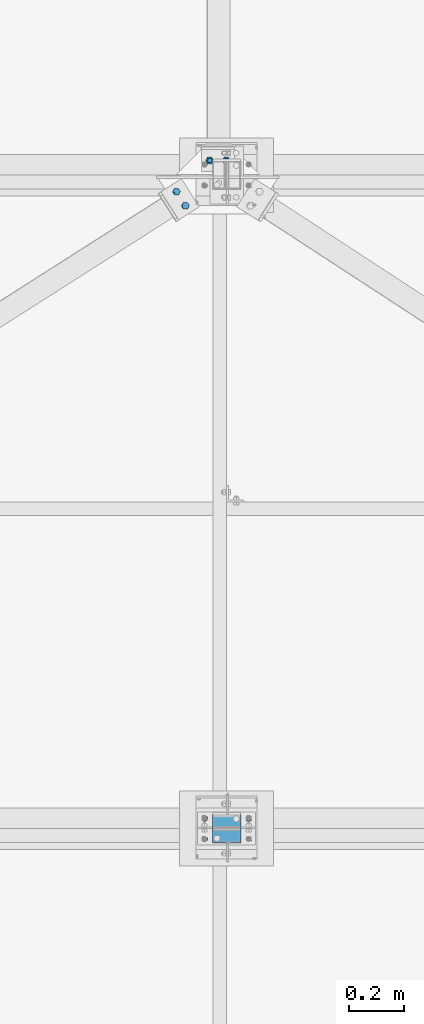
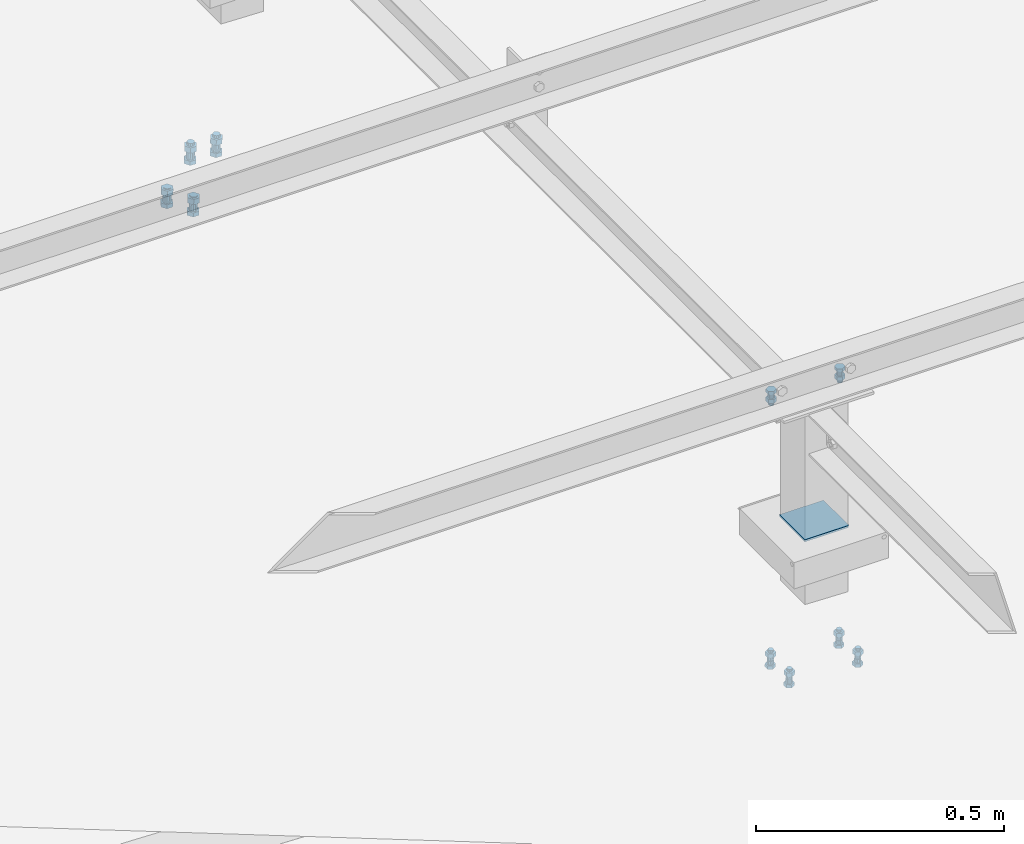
# One storey, part 336 of 3134: 5 mechanical fasteners, 4 elements without a shape of their own.
"""IFC2X3 building model written with IfcOpenShell, lengths in millimetres."""

from ifc_helpers import new_model, si_unit, frame, origin_with_axes, place, context, subcontext, project, spatial, faceted_brep, source, transform, mapped, material, type_object, element, aggregate, save


model = new_model("IFC2X3")

# Units and contexts
model_context = context("Model", 3, precision=1e-05, world=origin_with_axes())
body_context = subcontext(model_context, "Body", "Model", "MODEL_VIEW")
ifc_project = project(units=[si_unit("LENGTHUNIT", "METRE", prefix="MILLI"), si_unit("AREAUNIT", "SQUARE_METRE"), si_unit("VOLUMEUNIT", "CUBIC_METRE"), si_unit("MASSUNIT", "GRAM", prefix="KILO"), si_unit("TIMEUNIT", "SECOND"), si_unit("PLANEANGLEUNIT", "RADIAN"), si_unit("SOLIDANGLEUNIT", "STERADIAN"), si_unit("THERMODYNAMICTEMPERATUREUNIT", "DEGREE_CELSIUS"), si_unit("LUMINOUSINTENSITYUNIT", "LUMEN")], contexts=[model_context])

# Site, building, storey
site_placement = place(None, origin_with_axes())
site = spatial("IfcSite", under=ifc_project, at=site_placement, CompositionType="ELEMENT")
building_placement = place(site_placement, origin_with_axes())
building = spatial("IfcBuilding", under=site, at=building_placement, Name="Undefined", CompositionType="ELEMENT")
storey_placement = place(building_placement, origin_with_axes())
storey = spatial("IfcBuildingStorey", under=building, at=storey_placement, Name="Undefined", CompositionType="ELEMENT", Elevation=0.0)

# Assembly, mechanical fastener
assembly_1_placement = place(storey_placement, origin_with_axes())
assembly_1 = element("IfcElementAssembly", 1, at=assembly_1_placement, inside=storey, AssemblyPlace="NOTDEFINED", PredefinedType="RIGID_FRAME")
ifc_material_1 = material(Name="8.8")
mechanical_fastener_type = type_object("IfcMechanicalFastenerType", Name="Bolt assembly")
shared_shape_1 = source(origin_with_axes(), body_context, "Body", "Brep", [
    faceted_brep([(10.9696551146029, -14.0, 0.0), (5.48482755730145, -14.0, 9.5), (-5.48482755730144, -14.0, 9.5), (-10.9696551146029, -14.0, 1.34339530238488e-15), (-5.48482755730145, -14.0, -9.5), (5.48482755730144, -14.0, -9.50000000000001), (5.48482755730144, -6.0, -9.50000000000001), (-5.48482755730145, -6.0, -9.5), (-10.9696551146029, -6.0, 1.34339530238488e-15), (-5.48482755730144, -6.0, 9.5), (5.48482755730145, -6.0, 9.5), (10.9696551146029, -6.0, 0.0), (6.0, -6.0, 0.0), (5.19615242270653, -6.0, 3.00000000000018), (2.99999999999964, -6.0, 5.19615242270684), (-6.21801588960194e-13, -6.0, 6.0), (-3.00000000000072, -6.0, 5.19615242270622), (-5.19615242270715, -6.0, 2.9999999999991), (-6.0, -6.0, -1.24360317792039e-12), (-5.19615242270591, -6.0, -3.00000000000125), (-2.99999999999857, -6.0, -5.19615242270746), (1.85874342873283e-12, -6.0, -6.0), (3.00000000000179, -6.0, -5.1961524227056), (5.19615242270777, -6.0, -2.99999999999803), (5.19615242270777, 24.0, -2.99999999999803), (3.00000000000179, 24.0, -5.1961524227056), (1.85874342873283e-12, 24.0, -6.0), (-2.99999999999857, 24.0, -5.19615242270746), (-5.19615242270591, 24.0, -3.00000000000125), (-6.0, 24.0, -1.24360317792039e-12), (-5.19615242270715, 24.0, 2.9999999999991), (-3.00000000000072, 24.0, 5.19615242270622), (-6.21801588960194e-13, 24.0, 6.0), (2.99999999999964, 24.0, 5.19615242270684), (5.19615242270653, 24.0, 3.00000000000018), (6.0, 24.0, 0.0), (10.9696551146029, 6.00000000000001, 0.0), (5.48482755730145, 6.00000000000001, 9.5), (-5.48482755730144, 6.00000000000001, 9.5), (-10.9696551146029, 6.00000000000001, 1.34339530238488e-15), (-5.48482755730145, 6.00000000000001, -9.5), (5.48482755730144, 6.00000000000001, -9.50000000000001), (5.48482755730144, 16.0, -9.50000000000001), (-5.48482755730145, 16.0, -9.5), (-10.9696551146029, 16.0, 1.34339530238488e-15), (-5.48482755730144, 16.0, 9.5), (5.48482755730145, 16.0, 9.5), (10.9696551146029, 16.0, 0.0)], [[[0, 1, 2, 3, 4, 5]], [[6, 7, 8, 9, 10, 11]], [[0, 11, 10, 1]], [[1, 10, 9, 2]], [[2, 9, 8, 3]], [[3, 8, 7, 4]], [[4, 7, 6, 5]], [[5, 6, 11, 0]], [[12, 13, 14, 15, 16, 17, 18, 19, 20, 21, 22, 23]], [[24, 25, 26, 27, 28, 29, 30, 31, 32, 33, 34, 35]], [[12, 35, 34, 13]], [[13, 34, 33, 14]], [[14, 33, 32, 15]], [[15, 32, 31, 16]], [[16, 31, 30, 17]], [[17, 30, 29, 18]], [[18, 29, 28, 19]], [[19, 28, 27, 20]], [[20, 27, 26, 21]], [[21, 26, 25, 22]], [[22, 25, 24, 23]], [[23, 24, 35, 12]], [[36, 37, 38, 39, 40, 41]], [[42, 43, 44, 45, 46, 47]], [[36, 47, 46, 37]], [[37, 46, 45, 38]], [[38, 45, 44, 39]], [[39, 44, 43, 40]], [[40, 43, 42, 41]], [[41, 42, 47, 36]]]),
    faceted_brep([(7.0, -0.1, 0.0), (6.06217782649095, -0.1, 3.50000000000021), (3.49999999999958, -0.1, 6.06217782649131), (-7.25435187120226e-13, -0.1, 7.0), (-3.50000000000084, -0.1, 6.06217782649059), (-6.06217782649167, -0.1, 3.49999999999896), (-7.0, -0.1, -1.45087037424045e-12), (-6.06217782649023, -0.1, -3.50000000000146), (-3.49999999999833, -0.1, -6.06217782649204), (2.1685340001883e-12, -0.1, -7.0), (3.50000000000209, -0.1, -6.06217782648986), (6.0621778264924, -0.1, -3.4999999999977), (6.0621778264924, 6.00000000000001, -3.4999999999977), (3.50000000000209, 6.00000000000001, -6.06217782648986), (2.1685340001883e-12, 6.00000000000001, -7.0), (-3.49999999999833, 6.00000000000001, -6.06217782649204), (-6.06217782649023, 6.00000000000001, -3.50000000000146), (-7.0, 6.00000000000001, -1.45087037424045e-12), (-6.06217782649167, 6.00000000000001, 3.49999999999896), (-3.50000000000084, 6.00000000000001, 6.06217782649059), (-7.25435187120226e-13, 6.00000000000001, 7.0), (3.49999999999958, 6.00000000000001, 6.06217782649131), (6.06217782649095, 6.00000000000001, 3.50000000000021), (7.0, 6.00000000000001, 0.0), (7.0, -5.9, 0.0), (6.06217782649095, -5.9, 3.50000000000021), (3.49999999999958, -5.9, 6.06217782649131), (-7.25435187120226e-13, -5.9, 7.0), (-3.50000000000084, -5.9, 6.06217782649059), (-6.06217782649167, -5.9, 3.49999999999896), (-7.0, -5.9, -1.45087037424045e-12), (-6.06217782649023, -5.9, -3.50000000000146), (-3.49999999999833, -5.9, -6.06217782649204), (2.1685340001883e-12, -5.9, -7.0), (3.50000000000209, -5.9, -6.06217782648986), (6.0621778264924, -5.9, -3.4999999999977), (6.0621778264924, 0.0999999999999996, -3.4999999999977), (3.50000000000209, 0.0999999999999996, -6.06217782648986), (2.1685340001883e-12, 0.0999999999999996, -7.0), (-3.49999999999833, 0.0999999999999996, -6.06217782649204), (-6.06217782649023, 0.0999999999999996, -3.50000000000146), (-7.0, 0.0999999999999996, -1.45087037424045e-12), (-6.06217782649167, 0.0999999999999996, 3.49999999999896), (-3.50000000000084, 0.0999999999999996, 6.06217782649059), (-7.25435187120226e-13, 0.0999999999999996, 7.0), (3.49999999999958, 0.0999999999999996, 6.06217782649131), (6.06217782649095, 0.0999999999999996, 3.50000000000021), (7.0, 0.0999999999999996, 0.0)], [[[0, 1, 2, 3, 4, 5, 6, 7, 8, 9, 10, 11]], [[12, 13, 14, 15, 16, 17, 18, 19, 20, 21, 22, 23]], [[0, 23, 22, 1]], [[1, 22, 21, 2]], [[2, 21, 20, 3]], [[3, 20, 19, 4]], [[4, 19, 18, 5]], [[5, 18, 17, 6]], [[6, 17, 16, 7]], [[7, 16, 15, 8]], [[8, 15, 14, 9]], [[9, 14, 13, 10]], [[10, 13, 12, 11]], [[11, 12, 23, 0]], [[24, 25, 26, 27, 28, 29, 30, 31, 32, 33, 34, 35]], [[36, 37, 38, 39, 40, 41, 42, 43, 44, 45, 46, 47]], [[24, 47, 46, 25]], [[25, 46, 45, 26]], [[26, 45, 44, 27]], [[27, 44, 43, 28]], [[28, 43, 42, 29]], [[29, 42, 41, 30]], [[30, 41, 40, 31]], [[31, 40, 39, 32]], [[32, 39, 38, 33]], [[33, 38, 37, 34]], [[34, 37, 36, 35]], [[35, 36, 47, 24]]]),
])
mechanical_fastener_1_placement = place(assembly_1_placement, frame((75550.0, 10045.0, 5850.0), z_axis=(1.0, 0.0, 0.0), x_axis=(0.0, -1.0, 0.0)))
mechanical_fastener_1 = element("IfcMechanicalFastener", 2, at=mechanical_fastener_1_placement, type_object=mechanical_fastener_type, material=ifc_material_1, Name="Bolt assembly", NominalDiameter=12.0, NominalLength=30.0, context=body_context, shape_type="MappedRepresentation", body=[
    mapped(shared_shape_1, transform((0.0, -5.32963895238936e-10, -79.9999999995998))),
    mapped(shared_shape_1, transform((0.0, 5.3114490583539e-10, 79.9999999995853))),
])
aggregate(assembly_1, [mechanical_fastener_1])

assembly_2_placement = place(storey_placement, origin_with_axes())
assembly_2 = element("IfcElementAssembly", 3, at=assembly_2_placement, inside=storey, AssemblyPlace="NOTDEFINED", PredefinedType="RIGID_FRAME")
ifc_material_2 = material(Name="6.8")
shared_shape_2 = source(origin_with_axes(), body_context, "Body", "Brep", [
    faceted_brep([(51.5, 1.36424205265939e-12, 50.0), (51.3858192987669, 1.36424205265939e-12, 50.5740251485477), (51.0606601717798, 1.36424205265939e-12, 51.0606601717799), (50.5740251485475, 1.36424205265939e-12, 51.385819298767), (-50.0000000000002, 1.36424205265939e-12, 51.5), (-50.7500000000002, 1.36424205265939e-12, 51.2990381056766), (-51.2990381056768, 1.36424205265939e-12, 50.7499999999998), (-51.5, 1.36424205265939e-12, 49.9999999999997), (-51.5, 1.36424205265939e-12, -50.0000000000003), (-51.2990381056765, 1.36424205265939e-12, -50.7500000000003), (-50.7499999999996, 1.36424205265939e-12, -51.2990381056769), (-49.9999999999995, 1.36424205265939e-12, -51.5), (50.0000000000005, 1.36424205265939e-12, -51.5), (50.7500000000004, 1.36424205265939e-12, -51.2990381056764), (51.2990381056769, 1.36424205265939e-12, -50.7499999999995), (51.5, 1.36424205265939e-12, -49.9999999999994), (51.5, 5.10000000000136, -49.9999999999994), (51.2990381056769, 5.10000000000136, -50.7499999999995), (50.7500000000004, 5.10000000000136, -51.2990381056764), (50.0000000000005, 5.10000000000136, -51.5), (-49.9999999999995, 5.10000000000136, -51.5), (-50.7499999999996, 5.10000000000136, -51.2990381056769), (-51.2990381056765, 5.10000000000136, -50.7500000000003), (-51.5, 5.10000000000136, -50.0000000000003), (-51.5, 5.10000000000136, 49.9999999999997), (-51.2990381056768, 5.10000000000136, 50.7499999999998), (-50.7500000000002, 5.10000000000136, 51.2990381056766), (-50.0000000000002, 5.10000000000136, 51.5), (50.5740251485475, 5.10000000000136, 51.385819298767), (51.0606601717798, 5.10000000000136, 51.0606601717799), (51.3858192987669, 5.10000000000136, 50.5740251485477), (51.5, 5.10000000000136, 50.0)], [[[0, 1, 2, 3, 4, 5, 6, 7, 8, 9, 10, 11, 12, 13, 14, 15]], [[16, 17, 18, 19, 20, 21, 22, 23, 24, 25, 26, 27, 28, 29, 30, 31]], [[0, 31, 30, 1]], [[1, 30, 29, 2]], [[2, 29, 28, 3]], [[3, 28, 27, 4]], [[4, 27, 26, 5]], [[5, 26, 25, 6]], [[6, 25, 24, 7]], [[7, 24, 23, 8]], [[8, 23, 22, 9]], [[9, 22, 21, 10]], [[10, 21, 20, 11]], [[11, 20, 19, 12]], [[12, 19, 18, 13]], [[13, 18, 17, 14]], [[14, 17, 16, 15]], [[15, 16, 31, 0]]]),
])
mechanical_fastener_2_placement = place(assembly_2_placement, frame((75550.0, 10010.0, 5533.71), z_axis=(0.0, -1.0, 0.0), x_axis=(-1.0, 0.0, 0.0)))
mechanical_fastener_2 = element("IfcMechanicalFastener", 4, at=mechanical_fastener_2_placement, type_object=mechanical_fastener_type, material=ifc_material_2, Name="Bolt assembly", NominalDiameter=10.0, NominalLength=5.0, context=body_context, shape_type="MappedRepresentation", body=[
    mapped(shared_shape_2, transform((0.0, 0.0, 0.0))),
])
aggregate(assembly_2, [mechanical_fastener_2])

# Assembly, mechanical fasteners
assembly_3_placement = place(storey_placement, origin_with_axes())
assembly_3 = element("IfcElementAssembly", 5, at=assembly_3_placement, inside=storey, Name="300", AssemblyPlace="NOTDEFINED", PredefinedType="RIGID_FRAME")
shared_shape_3 = source(origin_with_axes(), body_context, "Body", "Brep", [
    faceted_brep([(13.856406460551, -15.0026600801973, 0.0), (6.92820323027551, -15.0026600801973, 12.0), (-6.92820323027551, -15.0026600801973, 12.0), (-13.856406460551, -15.0026600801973, 1.69692038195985e-15), (-6.92820323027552, -15.0026600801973, -12.0), (6.9282032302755, -15.0026600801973, -12.0), (6.9282032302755, -5.00266008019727, -12.0), (-6.92820323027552, -5.00266008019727, -12.0), (-13.856406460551, -5.00266008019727, 1.69692038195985e-15), (-6.92820323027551, -5.00266008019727, 12.0), (6.92820323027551, -5.00266008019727, 12.0), (13.856406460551, -5.00266008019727, 0.0), (8.0, -5.00266008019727, 0.0), (6.92820323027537, -5.00266008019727, 4.00000000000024), (3.99999999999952, -5.00266008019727, 6.92820323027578), (-8.29068785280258e-13, -5.00266008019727, 8.0), (-4.00000000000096, -5.00266008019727, 6.92820323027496), (-6.9282032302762, -5.00266008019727, 3.99999999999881), (-8.0, -5.00266008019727, -1.65813757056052e-12), (-6.92820323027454, -5.00266008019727, -4.00000000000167), (-3.99999999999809, -5.00266008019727, -6.92820323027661), (2.47832457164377e-12, -5.00266008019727, -8.0), (4.00000000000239, -5.00266008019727, -6.92820323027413), (6.92820323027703, -5.00266008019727, -3.99999999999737), (6.92820323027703, 34.9973399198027, -3.99999999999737), (4.00000000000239, 34.9973399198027, -6.92820323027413), (2.47832457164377e-12, 34.9973399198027, -8.0), (-3.99999999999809, 34.9973399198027, -6.92820323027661), (-6.92820323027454, 34.9973399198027, -4.00000000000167), (-8.0, 34.9973399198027, -1.65813757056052e-12), (-6.9282032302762, 34.9973399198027, 3.99999999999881), (-4.00000000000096, 34.9973399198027, 6.92820323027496), (-8.29068785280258e-13, 34.9973399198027, 8.0), (3.99999999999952, 34.9973399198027, 6.92820323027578), (6.92820323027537, 34.9973399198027, 4.00000000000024), (8.0, 34.9973399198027, 0.0), (13.856406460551, 14.9999995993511, 0.0), (6.92820323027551, 14.9999995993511, 12.0), (-6.92820323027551, 14.9999995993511, 12.0), (-13.856406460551, 14.9999995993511, 1.69692038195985e-15), (-6.92820323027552, 14.9999995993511, -12.0), (6.9282032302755, 14.9999995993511, -12.0), (6.9282032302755, 27.9999995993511, -12.0), (-6.92820323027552, 27.9999995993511, -12.0), (-13.856406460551, 27.9999995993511, 1.69692038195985e-15), (-6.92820323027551, 27.9999995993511, 12.0), (6.92820323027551, 27.9999995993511, 12.0), (13.856406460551, 27.9999995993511, 0.0)], [[[0, 1, 2, 3, 4, 5]], [[6, 7, 8, 9, 10, 11]], [[0, 11, 10, 1]], [[1, 10, 9, 2]], [[2, 9, 8, 3]], [[3, 8, 7, 4]], [[4, 7, 6, 5]], [[5, 6, 11, 0]], [[12, 13, 14, 15, 16, 17, 18, 19, 20, 21, 22, 23]], [[24, 25, 26, 27, 28, 29, 30, 31, 32, 33, 34, 35]], [[12, 35, 34, 13]], [[13, 34, 33, 14]], [[14, 33, 32, 15]], [[15, 32, 31, 16]], [[16, 31, 30, 17]], [[17, 30, 29, 18]], [[18, 29, 28, 19]], [[19, 28, 27, 20]], [[20, 27, 26, 21]], [[21, 26, 25, 22]], [[22, 25, 24, 23]], [[23, 24, 35, 12]], [[36, 37, 38, 39, 40, 41]], [[42, 43, 44, 45, 46, 47]], [[36, 47, 46, 37]], [[37, 46, 45, 38]], [[38, 45, 44, 39]], [[39, 44, 43, 40]], [[40, 43, 42, 41]], [[41, 42, 47, 36]]]),
    faceted_brep([(9.0, 4.90000583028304, 0.0), (7.79422863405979, 4.90000583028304, 4.50000000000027), (4.49999999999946, 4.90000583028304, 7.79422863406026), (-9.3270238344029e-13, 4.90000583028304, 9.0), (-4.50000000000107, 4.90000583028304, 7.79422863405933), (-7.79422863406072, 4.90000583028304, 4.49999999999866), (-9.0, 4.90000583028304, -1.86540476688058e-12), (-7.79422863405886, 4.90000583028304, -4.50000000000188), (-4.49999999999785, 4.90000583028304, -7.79422863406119), (2.78811514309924e-12, 4.90000583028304, -9.0), (4.50000000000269, 4.90000583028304, -7.7942286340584), (7.79422863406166, 4.90000583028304, -4.49999999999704), (7.79422863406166, 14.9999995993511, -4.49999999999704), (4.50000000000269, 14.9999995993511, -7.7942286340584), (2.78811514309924e-12, 14.9999995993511, -9.0), (-4.49999999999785, 14.9999995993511, -7.79422863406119), (-7.79422863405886, 14.9999995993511, -4.50000000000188), (-9.0, 14.9999995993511, -1.86540476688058e-12), (-7.79422863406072, 14.9999995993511, 4.49999999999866), (-4.50000000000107, 14.9999995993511, 7.79422863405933), (-9.3270238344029e-13, 14.9999995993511, 9.0), (4.49999999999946, 14.9999995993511, 7.79422863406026), (7.79422863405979, 14.9999995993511, 4.50000000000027), (9.0, 14.9999995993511, 0.0), (9.0, -4.90266008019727, 0.0), (7.79422863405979, -4.90266008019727, 4.50000000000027), (4.49999999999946, -4.90266008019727, 7.79422863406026), (-9.3270238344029e-13, -4.90266008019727, 9.0), (-4.50000000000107, -4.90266008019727, 7.79422863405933), (-7.79422863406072, -4.90266008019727, 4.49999999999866), (-9.0, -4.90266008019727, -1.86540476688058e-12), (-7.79422863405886, -4.90266008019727, -4.50000000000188), (-4.49999999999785, -4.90266008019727, -7.79422863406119), (2.78811514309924e-12, -4.90266008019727, -9.0), (4.50000000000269, -4.90266008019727, -7.7942286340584), (7.79422863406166, -4.90266008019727, -4.49999999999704), (7.79422863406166, 5.09733991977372, -4.49999999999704), (4.50000000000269, 5.09733991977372, -7.7942286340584), (2.78811514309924e-12, 5.09733991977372, -9.0), (-4.49999999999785, 5.09733991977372, -7.79422863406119), (-7.79422863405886, 5.09733991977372, -4.50000000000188), (-9.0, 5.09733991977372, -1.86540476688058e-12), (-7.79422863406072, 5.09733991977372, 4.49999999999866), (-4.50000000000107, 5.09733991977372, 7.79422863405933), (-9.3270238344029e-13, 5.09733991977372, 9.0), (4.49999999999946, 5.09733991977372, 7.79422863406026), (7.79422863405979, 5.09733991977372, 4.50000000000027), (9.0, 5.09733991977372, 0.0)], [[[0, 1, 2, 3, 4, 5, 6, 7, 8, 9, 10, 11]], [[12, 13, 14, 15, 16, 17, 18, 19, 20, 21, 22, 23]], [[0, 23, 22, 1]], [[1, 22, 21, 2]], [[2, 21, 20, 3]], [[3, 20, 19, 4]], [[4, 19, 18, 5]], [[5, 18, 17, 6]], [[6, 17, 16, 7]], [[7, 16, 15, 8]], [[8, 15, 14, 9]], [[9, 14, 13, 10]], [[10, 13, 12, 11]], [[11, 12, 23, 0]], [[24, 25, 26, 27, 28, 29, 30, 31, 32, 33, 34, 35]], [[36, 37, 38, 39, 40, 41, 42, 43, 44, 45, 46, 47]], [[24, 47, 46, 25]], [[25, 46, 45, 26]], [[26, 45, 44, 27]], [[27, 44, 43, 28]], [[28, 43, 42, 29]], [[29, 42, 41, 30]], [[30, 41, 40, 31]], [[31, 40, 39, 32]], [[32, 39, 38, 33]], [[33, 38, 37, 34]], [[34, 37, 36, 35]], [[35, 36, 47, 24]]]),
])
mechanical_fastener_3_placement = place(assembly_3_placement, frame((75488.3040564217, 12423.0494718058, 4990.31761508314), z_axis=(1.58005419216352e-05, -0.999999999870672, 2.99998354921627e-06), x_axis=(0.999519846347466, 1.57000007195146e-05, -0.0309851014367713)))
mechanical_fastener_3 = element("IfcMechanicalFastener", 6, at=mechanical_fastener_3_placement, type_object=mechanical_fastener_type, material=ifc_material_1, Name="Bolt assembly", NominalDiameter=16.0, NominalLength=40.0, context=body_context, shape_type="MappedRepresentation", body=[
    mapped(shared_shape_3, transform((0.0, 0.0, 0.0))),
    mapped(shared_shape_3, transform((59.9999999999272, 0.0, 5.40239852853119e-10))),
])
shared_shape_4 = source(origin_with_axes(), body_context, "Body", "Brep", [
    faceted_brep([(13.856406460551, -15.0000144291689, 0.0), (6.92820323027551, -15.0000144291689, 12.0), (-6.92820323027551, -15.0000144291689, 12.0), (-13.856406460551, -15.0000144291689, 1.69692038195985e-15), (-6.92820323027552, -15.0000144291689, -12.0), (6.9282032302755, -15.0000144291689, -12.0), (6.9282032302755, -5.00001442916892, -12.0), (-6.92820323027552, -5.00001442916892, -12.0), (-13.856406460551, -5.00001442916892, 1.69692038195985e-15), (-6.92820323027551, -5.00001442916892, 12.0), (6.92820323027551, -5.00001442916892, 12.0), (13.856406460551, -5.00001442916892, 0.0), (8.0, -5.00001442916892, 0.0), (6.92820323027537, -5.00001442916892, 4.00000000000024), (3.99999999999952, -5.00001442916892, 6.92820323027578), (-8.29068785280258e-13, -5.00001442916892, 8.0), (-4.00000000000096, -5.00001442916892, 6.92820323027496), (-6.9282032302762, -5.00001442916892, 3.99999999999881), (-8.0, -5.00001442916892, -1.65813757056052e-12), (-6.92820323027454, -5.00001442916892, -4.00000000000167), (-3.99999999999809, -5.00001442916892, -6.92820323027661), (2.47832457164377e-12, -5.00001442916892, -8.0), (4.00000000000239, -5.00001442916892, -6.92820323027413), (6.92820323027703, -5.00001442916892, -3.99999999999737), (6.92820323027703, 29.9999969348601, -3.99999999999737), (4.00000000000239, 29.9999969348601, -6.92820323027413), (2.47832457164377e-12, 29.9999969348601, -8.0), (-3.99999999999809, 29.9999969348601, -6.92820323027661), (-6.92820323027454, 29.9999969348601, -4.00000000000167), (-8.0, 29.9999969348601, -1.65813757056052e-12), (-6.9282032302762, 29.9999969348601, 3.99999999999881), (-4.00000000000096, 29.9999969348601, 6.92820323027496), (-8.29068785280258e-13, 29.9999969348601, 8.0), (3.99999999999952, 29.9999969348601, 6.92820323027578), (6.92820323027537, 29.9999969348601, 4.00000000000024), (8.0, 29.9999969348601, 0.0), (13.856406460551, 14.9999995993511, 0.0), (6.92820323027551, 14.9999995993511, 12.0), (-6.92820323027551, 14.9999995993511, 12.0), (-13.856406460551, 14.9999995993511, 1.69692038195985e-15), (-6.92820323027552, 14.9999995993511, -12.0), (6.9282032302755, 14.9999995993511, -12.0), (6.9282032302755, 27.9999995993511, -12.0), (-6.92820323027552, 27.9999995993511, -12.0), (-13.856406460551, 27.9999995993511, 1.69692038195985e-15), (-6.92820323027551, 27.9999995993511, 12.0), (6.92820323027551, 27.9999995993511, 12.0), (13.856406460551, 27.9999995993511, 0.0)], [[[0, 1, 2, 3, 4, 5]], [[6, 7, 8, 9, 10, 11]], [[0, 11, 10, 1]], [[1, 10, 9, 2]], [[2, 9, 8, 3]], [[3, 8, 7, 4]], [[4, 7, 6, 5]], [[5, 6, 11, 0]], [[12, 13, 14, 15, 16, 17, 18, 19, 20, 21, 22, 23]], [[24, 25, 26, 27, 28, 29, 30, 31, 32, 33, 34, 35]], [[12, 35, 34, 13]], [[13, 34, 33, 14]], [[14, 33, 32, 15]], [[15, 32, 31, 16]], [[16, 31, 30, 17]], [[17, 30, 29, 18]], [[18, 29, 28, 19]], [[19, 28, 27, 20]], [[20, 27, 26, 21]], [[21, 26, 25, 22]], [[22, 25, 24, 23]], [[23, 24, 35, 12]], [[36, 37, 38, 39, 40, 41]], [[42, 43, 44, 45, 46, 47]], [[36, 47, 46, 37]], [[37, 46, 45, 38]], [[38, 45, 44, 39]], [[39, 44, 43, 40]], [[40, 43, 42, 41]], [[41, 42, 47, 36]]]),
    faceted_brep([(9.0, 4.90000583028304, 0.0), (7.79422863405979, 4.90000583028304, 4.50000000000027), (4.49999999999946, 4.90000583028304, 7.79422863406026), (-9.3270238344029e-13, 4.90000583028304, 9.0), (-4.50000000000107, 4.90000583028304, 7.79422863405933), (-7.79422863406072, 4.90000583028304, 4.49999999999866), (-9.0, 4.90000583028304, -1.86540476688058e-12), (-7.79422863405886, 4.90000583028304, -4.50000000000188), (-4.49999999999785, 4.90000583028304, -7.79422863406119), (2.78811514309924e-12, 4.90000583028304, -9.0), (4.50000000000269, 4.90000583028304, -7.7942286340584), (7.79422863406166, 4.90000583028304, -4.49999999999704), (7.79422863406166, 14.9999995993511, -4.49999999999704), (4.50000000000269, 14.9999995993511, -7.7942286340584), (2.78811514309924e-12, 14.9999995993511, -9.0), (-4.49999999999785, 14.9999995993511, -7.79422863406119), (-7.79422863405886, 14.9999995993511, -4.50000000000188), (-9.0, 14.9999995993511, -1.86540476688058e-12), (-7.79422863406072, 14.9999995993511, 4.49999999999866), (-4.50000000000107, 14.9999995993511, 7.79422863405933), (-9.3270238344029e-13, 14.9999995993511, 9.0), (4.49999999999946, 14.9999995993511, 7.79422863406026), (7.79422863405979, 14.9999995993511, 4.50000000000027), (9.0, 14.9999995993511, 0.0), (9.0, -4.90001442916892, 0.0), (7.79422863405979, -4.90001442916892, 4.50000000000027), (4.49999999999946, -4.90001442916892, 7.79422863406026), (-9.3270238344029e-13, -4.90001442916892, 9.0), (-4.50000000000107, -4.90001442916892, 7.79422863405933), (-7.79422863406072, -4.90001442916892, 4.49999999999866), (-9.0, -4.90001442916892, -1.86540476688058e-12), (-7.79422863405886, -4.90001442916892, -4.50000000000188), (-4.49999999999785, -4.90001442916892, -7.79422863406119), (2.78811514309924e-12, -4.90001442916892, -9.0), (4.50000000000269, -4.90001442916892, -7.7942286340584), (7.79422863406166, -4.90001442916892, -4.49999999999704), (7.79422863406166, 5.10000199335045, -4.49999999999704), (4.50000000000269, 5.10000199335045, -7.7942286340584), (2.78811514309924e-12, 5.10000199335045, -9.0), (-4.49999999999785, 5.10000199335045, -7.79422863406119), (-7.79422863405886, 5.10000199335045, -4.50000000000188), (-9.0, 5.10000199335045, -1.86540476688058e-12), (-7.79422863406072, 5.10000199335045, 4.49999999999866), (-4.50000000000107, 5.10000199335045, 7.79422863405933), (-9.3270238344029e-13, 5.10000199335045, 9.0), (4.49999999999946, 5.10000199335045, 7.79422863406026), (7.79422863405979, 5.10000199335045, 4.50000000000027), (9.0, 5.10000199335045, 0.0)], [[[0, 1, 2, 3, 4, 5, 6, 7, 8, 9, 10, 11]], [[12, 13, 14, 15, 16, 17, 18, 19, 20, 21, 22, 23]], [[0, 23, 22, 1]], [[1, 22, 21, 2]], [[2, 21, 20, 3]], [[3, 20, 19, 4]], [[4, 19, 18, 5]], [[5, 18, 17, 6]], [[6, 17, 16, 7]], [[7, 16, 15, 8]], [[8, 15, 14, 9]], [[9, 14, 13, 10]], [[10, 13, 12, 11]], [[11, 12, 23, 0]], [[24, 25, 26, 27, 28, 29, 30, 31, 32, 33, 34, 35]], [[36, 37, 38, 39, 40, 41, 42, 43, 44, 45, 46, 47]], [[24, 47, 46, 25]], [[25, 46, 45, 26]], [[26, 45, 44, 27]], [[27, 44, 43, 28]], [[28, 43, 42, 29]], [[29, 42, 41, 30]], [[30, 41, 40, 31]], [[31, 40, 39, 32]], [[32, 39, 38, 33]], [[33, 38, 37, 34]], [[34, 37, 36, 35]], [[35, 36, 47, 24]]]),
])
mechanical_fastener_4_placement = place(assembly_3_placement, frame((75400.7486771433, 12259.5551161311, 4993.02917393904), z_axis=(0.843130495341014, 0.53707338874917, -0.0261370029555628), x_axis=(-0.536815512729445, 0.843535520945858, 0.0166412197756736)))
mechanical_fastener_4 = element("IfcMechanicalFastener", 7, at=mechanical_fastener_4_placement, type_object=mechanical_fastener_type, material=ifc_material_1, Name="Bolt assembly", NominalDiameter=16.0, NominalLength=35.0, context=body_context, shape_type="MappedRepresentation", body=[
    mapped(shared_shape_4, transform((0.0, 0.0, 0.0))),
    mapped(shared_shape_4, transform((59.9999999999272, 0.0, 5.40239852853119e-10))),
])
aggregate(assembly_3, [mechanical_fastener_3, mechanical_fastener_4])

# Assembly, mechanical fastener
assembly_4_placement = place(storey_placement, origin_with_axes())
assembly_4 = element("IfcElementAssembly", 8, at=assembly_4_placement, inside=storey, Name="300", AssemblyPlace="NOTDEFINED", PredefinedType="RIGID_FRAME")
shared_shape_5 = source(origin_with_axes(), body_context, "Body", "Brep", [
    faceted_brep([(10.9696551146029, -10.1954959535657, 0.0), (5.48482755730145, -10.1954959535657, 9.5), (-5.48482755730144, -10.1954959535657, 9.5), (-10.9696551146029, -10.1954959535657, 1.34339530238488e-15), (-5.48482755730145, -10.1954959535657, -9.5), (5.48482755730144, -10.1954959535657, -9.50000000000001), (5.48482755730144, -2.19549595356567, -9.50000000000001), (-5.48482755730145, -2.19549595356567, -9.5), (-10.9696551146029, -2.19549595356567, 1.34339530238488e-15), (-5.48482755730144, -2.19549595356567, 9.5), (5.48482755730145, -2.19549595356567, 9.5), (10.9696551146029, -2.19549595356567, 0.0), (6.0, -2.19549595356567, 0.0), (5.19615242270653, -2.19549595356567, 3.00000000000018), (2.99999999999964, -2.19549595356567, 5.19615242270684), (-6.21801588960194e-13, -2.19549595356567, 6.0), (-3.00000000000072, -2.19549595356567, 5.19615242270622), (-5.19615242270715, -2.19549595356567, 2.9999999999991), (-6.0, -2.19549595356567, -1.24360317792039e-12), (-5.19615242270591, -2.19549595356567, -3.00000000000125), (-2.99999999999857, -2.19549595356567, -5.19615242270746), (1.85874342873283e-12, -2.19549595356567, -6.0), (3.00000000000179, -2.19549595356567, -5.1961524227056), (5.19615242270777, -2.19549595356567, -2.99999999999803), (5.19615242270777, 32.8045040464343, -2.99999999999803), (3.00000000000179, 32.8045040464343, -5.1961524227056), (1.85874342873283e-12, 32.8045040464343, -6.0), (-2.99999999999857, 32.8045040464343, -5.19615242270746), (-5.19615242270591, 32.8045040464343, -3.00000000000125), (-6.0, 32.8045040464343, -1.24360317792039e-12), (-5.19615242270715, 32.8045040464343, 2.9999999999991), (-3.00000000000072, 32.8045040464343, 5.19615242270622), (-6.21801588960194e-13, 32.8045040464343, 6.0), (2.99999999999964, 32.8045040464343, 5.19615242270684), (5.19615242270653, 32.8045040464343, 3.00000000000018), (6.0, 32.8045040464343, 0.0), (10.9696551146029, 17.0008987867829, 0.0), (5.48482755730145, 17.0008987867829, 9.5), (-5.48482755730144, 17.0008987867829, 9.5), (-10.9696551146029, 17.0008987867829, 1.34339530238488e-15), (-5.48482755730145, 17.0008987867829, -9.5), (5.48482755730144, 17.0008987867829, -9.50000000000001), (5.48482755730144, 27.0008987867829, -9.50000000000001), (-5.48482755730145, 27.0008987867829, -9.5), (-10.9696551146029, 27.0008987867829, 1.34339530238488e-15), (-5.48482755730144, 27.0008987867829, 9.5), (5.48482755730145, 27.0008987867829, 9.5), (10.9696551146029, 27.0008987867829, 0.0)], [[[0, 1, 2, 3, 4, 5]], [[6, 7, 8, 9, 10, 11]], [[0, 11, 10, 1]], [[1, 10, 9, 2]], [[2, 9, 8, 3]], [[3, 8, 7, 4]], [[4, 7, 6, 5]], [[5, 6, 11, 0]], [[12, 13, 14, 15, 16, 17, 18, 19, 20, 21, 22, 23]], [[24, 25, 26, 27, 28, 29, 30, 31, 32, 33, 34, 35]], [[12, 35, 34, 13]], [[13, 34, 33, 14]], [[14, 33, 32, 15]], [[15, 32, 31, 16]], [[16, 31, 30, 17]], [[17, 30, 29, 18]], [[18, 29, 28, 19]], [[19, 28, 27, 20]], [[20, 27, 26, 21]], [[21, 26, 25, 22]], [[22, 25, 24, 23]], [[23, 24, 35, 12]], [[36, 37, 38, 39, 40, 41]], [[42, 43, 44, 45, 46, 47]], [[36, 47, 46, 37]], [[37, 46, 45, 38]], [[38, 45, 44, 39]], [[39, 44, 43, 40]], [[40, 43, 42, 41]], [[41, 42, 47, 36]]]),
    faceted_brep([(7.0, 8.90089878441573, 0.0), (6.06217782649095, 8.90089878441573, 3.50000000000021), (3.49999999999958, 8.90089878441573, 6.06217782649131), (-7.25435187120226e-13, 8.90089878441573, 7.0), (-3.50000000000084, 8.90089878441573, 6.06217782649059), (-6.06217782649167, 8.90089878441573, 3.49999999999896), (-7.0, 8.90089878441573, -1.45087037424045e-12), (-6.06217782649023, 8.90089878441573, -3.50000000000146), (-3.49999999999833, 8.90089878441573, -6.06217782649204), (2.1685340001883e-12, 8.90089878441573, -7.0), (3.50000000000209, 8.90089878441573, -6.06217782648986), (6.0621778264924, 8.90089878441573, -3.4999999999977), (6.0621778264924, 17.0008987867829, -3.4999999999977), (3.50000000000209, 17.0008987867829, -6.06217782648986), (2.1685340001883e-12, 17.0008987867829, -7.0), (-3.49999999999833, 17.0008987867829, -6.06217782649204), (-6.06217782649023, 17.0008987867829, -3.50000000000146), (-7.0, 17.0008987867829, -1.45087037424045e-12), (-6.06217782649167, 17.0008987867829, 3.49999999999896), (-3.50000000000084, 17.0008987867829, 6.06217782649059), (-7.25435187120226e-13, 17.0008987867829, 7.0), (3.49999999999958, 17.0008987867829, 6.06217782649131), (6.06217782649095, 17.0008987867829, 3.50000000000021), (7.0, 17.0008987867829, 0.0), (7.0, -2.09549595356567, 0.0), (6.06217782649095, -2.09549595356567, 3.50000000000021), (3.49999999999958, -2.09549595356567, 6.06217782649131), (-7.25435187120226e-13, -2.09549595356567, 7.0), (-3.50000000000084, -2.09549595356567, 6.06217782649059), (-6.06217782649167, -2.09549595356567, 3.49999999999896), (-7.0, -2.09549595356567, -1.45087037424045e-12), (-6.06217782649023, -2.09549595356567, -3.50000000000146), (-3.49999999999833, -2.09549595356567, -6.06217782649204), (2.1685340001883e-12, -2.09549595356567, -7.0), (3.50000000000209, -2.09549595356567, -6.06217782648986), (6.0621778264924, -2.09549595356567, -3.4999999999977), (6.0621778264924, 7.10450385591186, -3.4999999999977), (3.50000000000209, 7.10450385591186, -6.06217782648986), (2.1685340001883e-12, 7.10450385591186, -7.0), (-3.49999999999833, 7.10450385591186, -6.06217782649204), (-6.06217782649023, 7.10450385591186, -3.50000000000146), (-7.0, 7.10450385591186, -1.45087037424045e-12), (-6.06217782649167, 7.10450385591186, 3.49999999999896), (-3.50000000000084, 7.10450385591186, 6.06217782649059), (-7.25435187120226e-13, 7.10450385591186, 7.0), (3.49999999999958, 7.10450385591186, 6.06217782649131), (6.06217782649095, 7.10450385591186, 3.50000000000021), (7.0, 7.10450385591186, 0.0)], [[[0, 1, 2, 3, 4, 5, 6, 7, 8, 9, 10, 11]], [[12, 13, 14, 15, 16, 17, 18, 19, 20, 21, 22, 23]], [[0, 23, 22, 1]], [[1, 22, 21, 2]], [[2, 21, 20, 3]], [[3, 20, 19, 4]], [[4, 19, 18, 5]], [[5, 18, 17, 6]], [[6, 17, 16, 7]], [[7, 16, 15, 8]], [[8, 15, 14, 9]], [[9, 14, 13, 10]], [[10, 13, 12, 11]], [[11, 12, 23, 0]], [[24, 25, 26, 27, 28, 29, 30, 31, 32, 33, 34, 35]], [[36, 37, 38, 39, 40, 41, 42, 43, 44, 45, 46, 47]], [[24, 47, 46, 25]], [[25, 46, 45, 26]], [[26, 45, 44, 27]], [[27, 44, 43, 28]], [[28, 43, 42, 29]], [[29, 42, 41, 30]], [[30, 41, 40, 31]], [[31, 40, 39, 32]], [[32, 39, 38, 33]], [[33, 38, 37, 34]], [[34, 37, 36, 35]], [[35, 36, 47, 24]]]),
])
mechanical_fastener_5_placement = place(assembly_4_placement, frame((75549.5351187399, 10048.0, 5185.0072055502), z_axis=(-0.99951962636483, 0.0, 0.0309922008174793), x_axis=(0.0, -1.0, 0.0)))
mechanical_fastener_5 = element("IfcMechanicalFastener", 9, at=mechanical_fastener_5_placement, type_object=mechanical_fastener_type, material=ifc_material_1, Name="Bolt assembly", NominalDiameter=12.0, NominalLength=35.0, context=body_context, shape_type="MappedRepresentation", body=[
    mapped(shared_shape_5, transform((0.0, -5.32963895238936e-10, -79.9999999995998))),
    mapped(shared_shape_5, transform((76.0, -5.32963895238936e-10, -79.9999999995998))),
    mapped(shared_shape_5, transform((0.0, 5.3114490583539e-10, 79.9999999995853))),
    mapped(shared_shape_5, transform((76.0, 5.3114490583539e-10, 79.9999999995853))),
])
aggregate(assembly_4, [mechanical_fastener_5])

save(model, "model.ifc")
